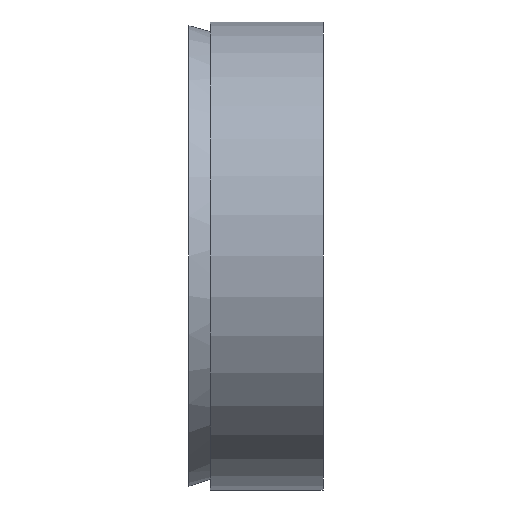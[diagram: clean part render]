
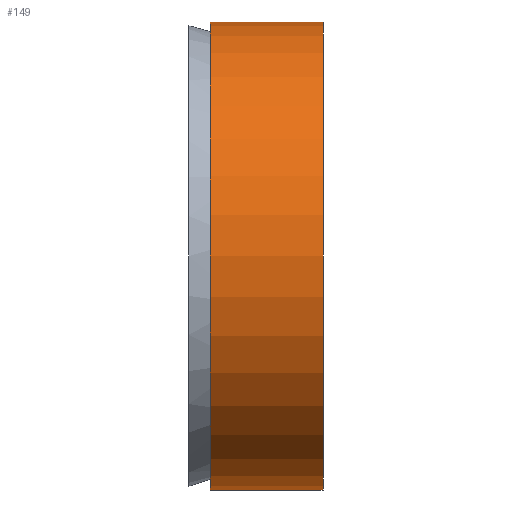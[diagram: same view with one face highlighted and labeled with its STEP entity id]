
A CAD part, front view. The second image highlights one B-rep face of the part: STEP entity #149.
In plain terms, the highlighted cylindrical face has radius 11 mm (diameter 22 mm), a full revolution.
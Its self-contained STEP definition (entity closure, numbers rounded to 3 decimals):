
#27=CYLINDRICAL_SURFACE('',#167,11.);
#35=FACE_BOUND('',#62,.T.);
#47=FACE_OUTER_BOUND('',#61,.T.);
#61=EDGE_LOOP('',(#121));
#62=EDGE_LOOP('',(#122));
#83=CIRCLE('',#166,11.);
#84=CIRCLE('',#168,11.);
#95=VERTEX_POINT('',#255);
#96=VERTEX_POINT('',#258);
#107=EDGE_CURVE('',#95,#95,#83,.T.);
#108=EDGE_CURVE('',#96,#96,#84,.T.);
#121=ORIENTED_EDGE('',*,*,#107,.T.);
#122=ORIENTED_EDGE('',*,*,#108,.F.);
#149=ADVANCED_FACE('',(#47,#35),#27,.T.);
#166=AXIS2_PLACEMENT_3D('',#256,#200,#201);
#167=AXIS2_PLACEMENT_3D('',#257,#202,#203);
#168=AXIS2_PLACEMENT_3D('',#259,#204,#205);
#200=DIRECTION('center_axis',(-1.,0.,0.));
#201=DIRECTION('ref_axis',(0.,0.,1.));
#202=DIRECTION('center_axis',(-1.,0.,0.));
#203=DIRECTION('ref_axis',(0.,0.,1.));
#204=DIRECTION('center_axis',(-1.,0.,0.));
#205=DIRECTION('ref_axis',(0.,0.,1.));
#255=CARTESIAN_POINT('',(0.947,0.,31.778));
#256=CARTESIAN_POINT('Origin',(0.947,0.,20.778));
#257=CARTESIAN_POINT('Origin',(-1.703,0.,20.778));
#258=CARTESIAN_POINT('',(-4.353,0.,31.778));
#259=CARTESIAN_POINT('Origin',(-4.353,0.,20.778));
